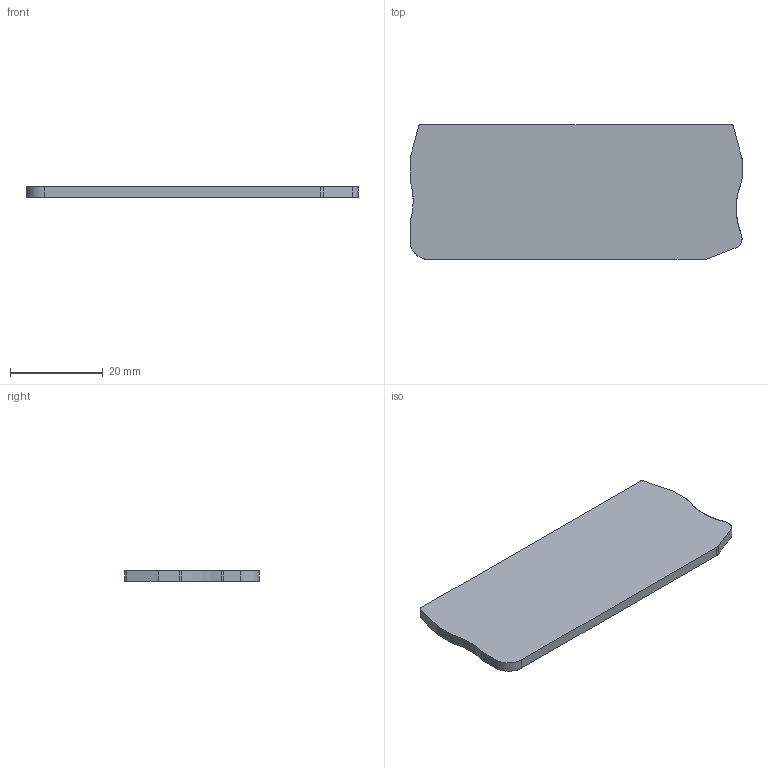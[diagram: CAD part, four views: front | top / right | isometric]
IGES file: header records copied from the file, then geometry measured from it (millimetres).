
Global section: file name: 3030491-d_st4twin.igs; native system: OneSpace Designer 3D IGES; preprocessor: 11.50A  18-Jul-2002; date: 20040204.072443; units: millimetre
Bounding box: 71.5 x 29.05 x 2.2 mm (x, y, z)
Surface area: 4495.8 mm2 (no closed solid volume)
Topology: 0 solids, 0 shells, 24 faces, 182 edges, 182 vertices
Faces by surface type: bspline 24
